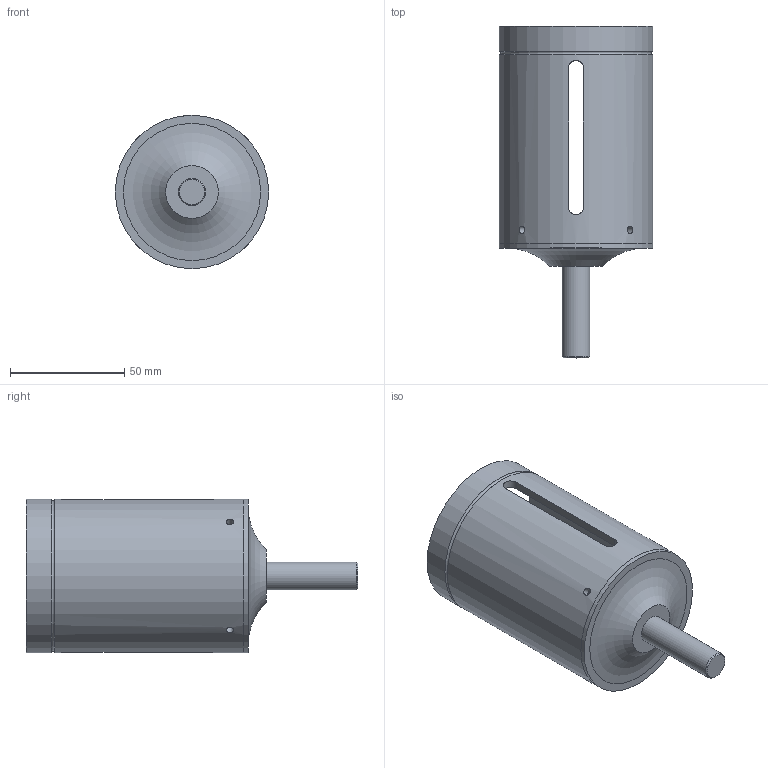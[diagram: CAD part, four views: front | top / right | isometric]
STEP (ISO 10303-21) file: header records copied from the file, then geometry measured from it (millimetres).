
FILE_DESCRIPTION(/* description */ (''),/* implementation_level */ '2;1');
FILE_NAME(/* name */ 'C:\Evgeny\Noga Works\_Noga MT Brush\solidcam\Sleeves for Face Brush D60 UF5560.stp',/* time_stamp */ '2025-03-23T10:17:36+02:00',/* author */ ('evgeny'),/* organization */ (''),/* preprocessor_version */ 'ST-DEVELOPER v20',/* originating_system */ 'Autodesk Inventor 2022',/* authorisation */ '');
FILE_SCHEMA (('AUTOMOTIVE_DESIGN { 1 0 10303 214 3 1 1 }'));
Length unit declared in the file: millimetre
Products named in the file (1): Sleeves for Face Brush D60
Bounding box: 67 x 145 x 67 mm (x, y, z)
Volume: 103600.9 mm3; surface area: 52360 mm2
Topology: 3 solids, 3 shells, 37 faces, 89 edges, 62 vertices
Faces by surface type: cylinder 18, plane 14, cone 3, torus 2
Full cylindrical faces by diameter (mm): 3.242 x5, 12 x2, 23 x1, 53 x1, 60 x2, 67 x3
Entity records: 1558 total; most frequent: CARTESIAN_POINT 634, ORIENTED_EDGE 176, DIRECTION 167, EDGE_CURVE 88, AXIS2_PLACEMENT_3D 67, VERTEX_POINT 62, EDGE_LOOP 58, FACE_OUTER_BOUND 37
